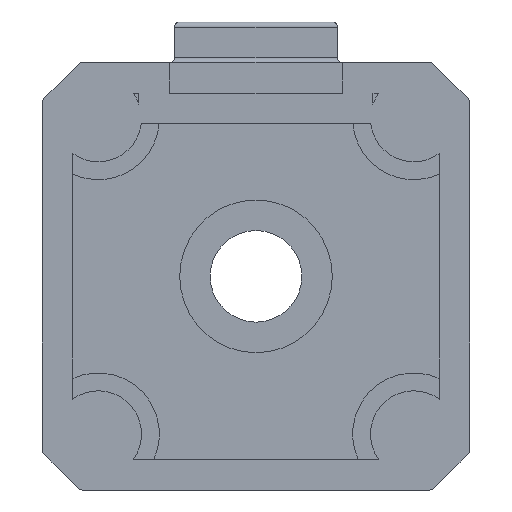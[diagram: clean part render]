
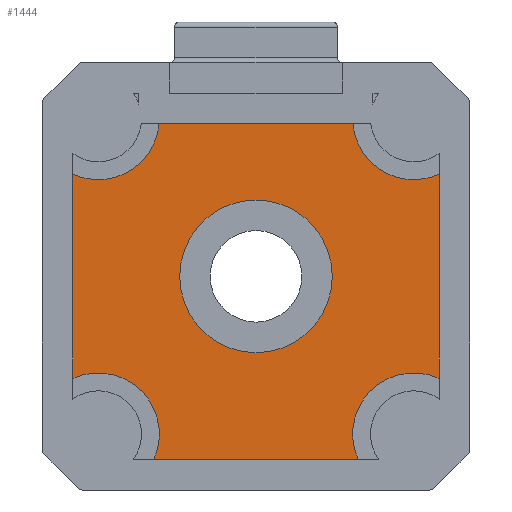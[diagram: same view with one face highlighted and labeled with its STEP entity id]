
A CAD part, front view. The second image highlights one B-rep face of the part: STEP entity #1444.
In plain terms, the highlighted planar face has unit normal (0, -1, 0).
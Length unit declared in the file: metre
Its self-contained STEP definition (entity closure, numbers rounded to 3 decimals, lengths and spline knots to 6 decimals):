
#35=PLANE('',#1560);
#82=LINE('',#2245,#201);
#83=LINE('',#2250,#202);
#84=LINE('',#2254,#203);
#85=LINE('',#2258,#204);
#201=VECTOR('',#1760,1.);
#202=VECTOR('',#1763,1.);
#203=VECTOR('',#1766,1.);
#204=VECTOR('',#1769,1.);
#328=ORIENTED_EDGE('',*,*,#736,.T.);
#329=ORIENTED_EDGE('',*,*,#737,.T.);
#330=ORIENTED_EDGE('',*,*,#738,.F.);
#331=ORIENTED_EDGE('',*,*,#739,.T.);
#332=ORIENTED_EDGE('',*,*,#740,.F.);
#333=ORIENTED_EDGE('',*,*,#741,.T.);
#334=ORIENTED_EDGE('',*,*,#742,.F.);
#335=ORIENTED_EDGE('',*,*,#743,.T.);
#336=ORIENTED_EDGE('',*,*,#744,.T.);
#736=EDGE_CURVE('',#940,#941,#82,.T.);
#737=EDGE_CURVE('',#941,#942,#1066,.T.);
#738=EDGE_CURVE('',#943,#942,#83,.T.);
#739=EDGE_CURVE('',#943,#944,#1067,.T.);
#740=EDGE_CURVE('',#945,#944,#84,.T.);
#741=EDGE_CURVE('',#945,#946,#1068,.T.);
#742=EDGE_CURVE('',#947,#946,#85,.T.);
#743=EDGE_CURVE('',#947,#940,#1069,.T.);
#744=EDGE_CURVE('',#948,#948,#1070,.T.);
#940=VERTEX_POINT('',#2246);
#941=VERTEX_POINT('',#2247);
#942=VERTEX_POINT('',#2249);
#943=VERTEX_POINT('',#2251);
#944=VERTEX_POINT('',#2253);
#945=VERTEX_POINT('',#2255);
#946=VERTEX_POINT('',#2257);
#947=VERTEX_POINT('',#2259);
#948=VERTEX_POINT('',#2262);
#1066=CIRCLE('',#1561,0.006);
#1067=CIRCLE('',#1562,0.006);
#1068=CIRCLE('',#1563,0.006);
#1069=CIRCLE('',#1564,0.006);
#1070=CIRCLE('',#1565,0.0075);
#1148=EDGE_LOOP('',(#328,#329,#330,#331,#332,#333,#334,#335));
#1149=EDGE_LOOP('',(#336));
#1273=FACE_BOUND('',#1148,.T.);
#1274=FACE_BOUND('',#1149,.T.);
#1444=ADVANCED_FACE('',(#1273,#1274),#35,.F.);
#1560=AXIS2_PLACEMENT_3D('',#2244,#1758,#1759);
#1561=AXIS2_PLACEMENT_3D('',#2248,#1761,#1762);
#1562=AXIS2_PLACEMENT_3D('',#2252,#1764,#1765);
#1563=AXIS2_PLACEMENT_3D('',#2256,#1767,#1768);
#1564=AXIS2_PLACEMENT_3D('',#2260,#1770,#1771);
#1565=AXIS2_PLACEMENT_3D('',#2261,#1772,#1773);
#1758=DIRECTION('',(0.,1.,0.));
#1759=DIRECTION('',(0.,0.,1.));
#1760=DIRECTION('',(-1.,0.,0.));
#1761=DIRECTION('',(0.,1.,0.));
#1762=DIRECTION('',(0.,0.,1.));
#1763=DIRECTION('',(0.,0.,1.));
#1764=DIRECTION('',(0.,1.,0.));
#1765=DIRECTION('',(0.,0.,1.));
#1766=DIRECTION('',(-1.,0.,0.));
#1767=DIRECTION('',(0.,1.,0.));
#1768=DIRECTION('',(0.,0.,1.));
#1769=DIRECTION('',(0.,0.,-1.));
#1770=DIRECTION('',(0.,1.,0.));
#1771=DIRECTION('',(0.,0.,1.));
#1772=DIRECTION('',(0.,1.,0.));
#1773=DIRECTION('',(0.,0.,1.));
#2244=CARTESIAN_POINT('',(0.,0.0066,0.));
#2245=CARTESIAN_POINT('',(0.,0.0066,0.015));
#2246=CARTESIAN_POINT('',(0.009521,0.0066,0.015));
#2247=CARTESIAN_POINT('',(-0.009521,0.0066,0.015));
#2248=CARTESIAN_POINT('',(-0.0155,0.0066,0.0155));
#2249=CARTESIAN_POINT('',(-0.018,0.0066,0.010046));
#2250=CARTESIAN_POINT('',(-0.018,0.0066,-0.021));
#2251=CARTESIAN_POINT('',(-0.018,0.0066,-0.010046));
#2252=CARTESIAN_POINT('',(-0.0155,0.0066,-0.0155));
#2253=CARTESIAN_POINT('',(-0.010046,0.0066,-0.018));
#2254=CARTESIAN_POINT('',(-0.021,0.0066,-0.018));
#2255=CARTESIAN_POINT('',(0.010046,0.0066,-0.018));
#2256=CARTESIAN_POINT('',(0.0155,0.0066,-0.0155));
#2257=CARTESIAN_POINT('',(0.018,0.0066,-0.010046));
#2258=CARTESIAN_POINT('',(0.018,0.0066,-0.021));
#2259=CARTESIAN_POINT('',(0.018,0.0066,0.010046));
#2260=CARTESIAN_POINT('',(0.0155,0.0066,0.0155));
#2261=CARTESIAN_POINT('',(0.,0.0066,0.));
#2262=CARTESIAN_POINT('',(0.,0.0066,0.0075));
